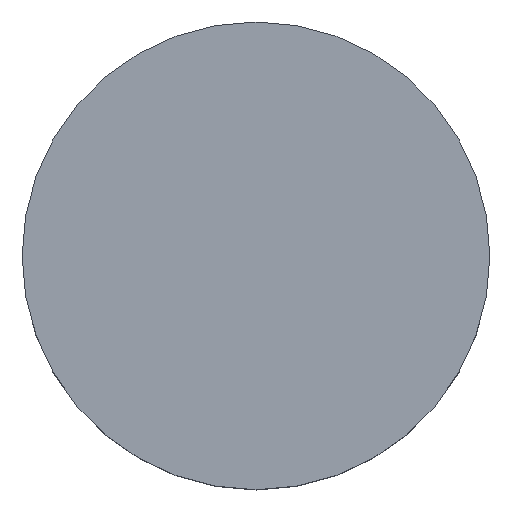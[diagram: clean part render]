
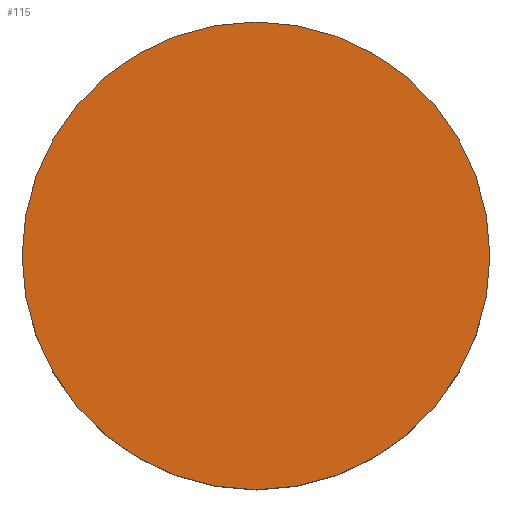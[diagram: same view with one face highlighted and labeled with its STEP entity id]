
A CAD part, top view. The second image highlights one B-rep face of the part: STEP entity #115.
In plain terms, the highlighted planar face has unit normal (0, 0, 1).
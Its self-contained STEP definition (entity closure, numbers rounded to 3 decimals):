
#115=ADVANCED_FACE('',(#129),#126,.T.);
#126=PLANE('',#242);
#129=FACE_OUTER_BOUND('',#139,.T.);
#139=EDGE_LOOP('',(#151,#152));
#151=ORIENTED_EDGE('',*,*,#203,.F.);
#152=ORIENTED_EDGE('',*,*,#204,.F.);
#191=VERTEX_POINT('',#329);
#192=VERTEX_POINT('',#330);
#203=EDGE_CURVE('',#191,#192,#223,.T.);
#204=EDGE_CURVE('',#192,#191,#224,.T.);
#223=CIRCLE('',#240,8.);
#224=CIRCLE('',#241,8.);
#240=AXIS2_PLACEMENT_3D('',#328,#269,#270);
#241=AXIS2_PLACEMENT_3D('',#331,#271,#272);
#242=AXIS2_PLACEMENT_3D('',#332,#273,#274);
#269=DIRECTION('',(0.,0.,-1.));
#270=DIRECTION('',(-1.,0.,0.));
#271=DIRECTION('',(0.,0.,-1.));
#272=DIRECTION('',(1.,0.,0.));
#273=DIRECTION('',(0.,0.,1.));
#274=DIRECTION('',(1.,0.,0.));
#328=CARTESIAN_POINT('',(0.,0.,5.));
#329=CARTESIAN_POINT('',(0.,8.,5.));
#330=CARTESIAN_POINT('',(0.,-8.,5.));
#331=CARTESIAN_POINT('',(0.,0.,5.));
#332=CARTESIAN_POINT('',(0.,0.,5.));
